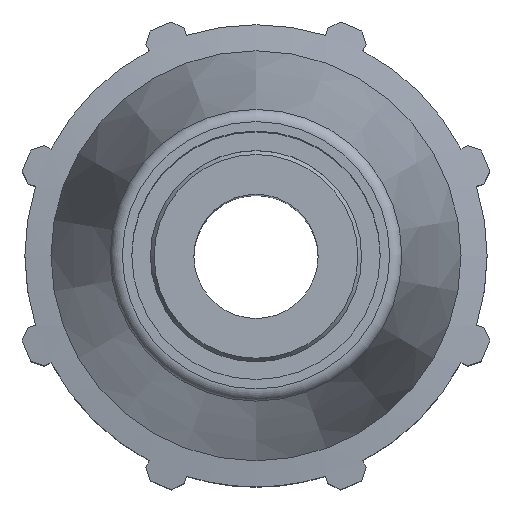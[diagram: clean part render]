
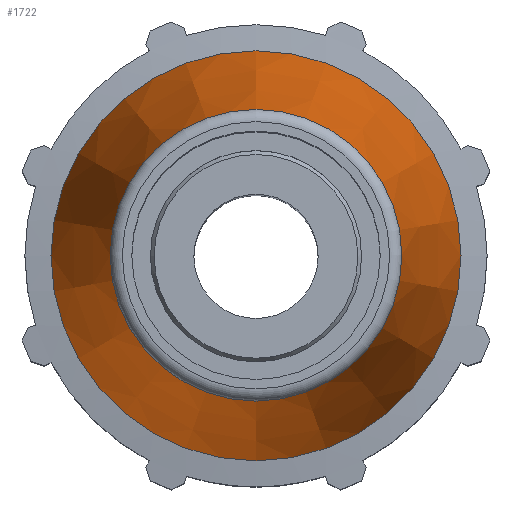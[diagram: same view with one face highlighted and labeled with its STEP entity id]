
A CAD part, top view. The second image highlights one B-rep face of the part: STEP entity #1722.
In plain terms, the highlighted conical face has half-angle 11.155 degrees and reference radius 22.462 mm.
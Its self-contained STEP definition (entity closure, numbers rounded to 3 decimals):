
#91=LINE('',#2643,#194);
#194=VECTOR('',#2091,22.462);
#297=CONICAL_SURFACE('',#1847,22.462,0.195);
#370=FACE_OUTER_BOUND('',#465,.T.);
#465=EDGE_LOOP('',(#1182,#1183,#1184,#1185,#1186,#1187,#1188));
#572=CIRCLE('',#1838,18.779);
#573=CIRCLE('',#1839,18.779);
#577=CIRCLE('',#1843,18.779);
#580=CIRCLE('',#1848,26.4);
#581=CIRCLE('',#1849,26.4);
#705=VERTEX_POINT('',#2622);
#706=VERTEX_POINT('',#2623);
#707=VERTEX_POINT('',#2625);
#712=VERTEX_POINT('',#2639);
#713=VERTEX_POINT('',#2640);
#899=EDGE_CURVE('',#705,#706,#572,.T.);
#900=EDGE_CURVE('',#706,#707,#573,.T.);
#904=EDGE_CURVE('',#707,#705,#577,.T.);
#907=EDGE_CURVE('',#712,#713,#580,.T.);
#908=EDGE_CURVE('',#713,#712,#581,.T.);
#909=EDGE_CURVE('',#713,#706,#91,.T.);
#1182=ORIENTED_EDGE('',*,*,#907,.F.);
#1183=ORIENTED_EDGE('',*,*,#908,.F.);
#1184=ORIENTED_EDGE('',*,*,#909,.T.);
#1185=ORIENTED_EDGE('',*,*,#899,.F.);
#1186=ORIENTED_EDGE('',*,*,#904,.F.);
#1187=ORIENTED_EDGE('',*,*,#900,.F.);
#1188=ORIENTED_EDGE('',*,*,#909,.F.);
#1722=ADVANCED_FACE('',(#370),#297,.T.);
#1838=AXIS2_PLACEMENT_3D('',#2624,#2067,#2068);
#1839=AXIS2_PLACEMENT_3D('',#2626,#2069,#2070);
#1843=AXIS2_PLACEMENT_3D('',#2632,#2077,#2078);
#1847=AXIS2_PLACEMENT_3D('',#2638,#2085,#2086);
#1848=AXIS2_PLACEMENT_3D('',#2641,#2087,#2088);
#1849=AXIS2_PLACEMENT_3D('',#2642,#2089,#2090);
#2067=DIRECTION('center_axis',(0.,0.,1.));
#2068=DIRECTION('ref_axis',(0.,-1.,0.));
#2069=DIRECTION('center_axis',(0.,0.,1.));
#2070=DIRECTION('ref_axis',(0.,-1.,0.));
#2077=DIRECTION('center_axis',(0.,0.,1.));
#2078=DIRECTION('ref_axis',(0.,-1.,0.));
#2085=DIRECTION('center_axis',(0.,0.,-1.));
#2086=DIRECTION('ref_axis',(0.,1.,0.));
#2087=DIRECTION('center_axis',(0.,0.,-1.));
#2088=DIRECTION('ref_axis',(1.,0.,0.));
#2089=DIRECTION('center_axis',(0.,0.,-1.));
#2090=DIRECTION('ref_axis',(1.,0.,0.));
#2091=DIRECTION('',(0.,0.193,0.981));
#2622=CARTESIAN_POINT('',(0.,18.779,-1.29));
#2623=CARTESIAN_POINT('',(0.,-18.779,-1.29));
#2624=CARTESIAN_POINT('Origin',(0.,0.,-1.29));
#2625=CARTESIAN_POINT('',(18.779,0.,-1.29));
#2626=CARTESIAN_POINT('Origin',(0.,0.,-1.29));
#2632=CARTESIAN_POINT('Origin',(0.,0.,-1.29));
#2638=CARTESIAN_POINT('Origin',(0.,0.,-19.97));
#2639=CARTESIAN_POINT('',(0.,26.4,-39.94));
#2640=CARTESIAN_POINT('',(0.,-26.4,-39.94));
#2641=CARTESIAN_POINT('Origin',(0.,0.,-39.94));
#2642=CARTESIAN_POINT('Origin',(0.,0.,-39.94));
#2643=CARTESIAN_POINT('',(0.,-22.462,-19.97));
